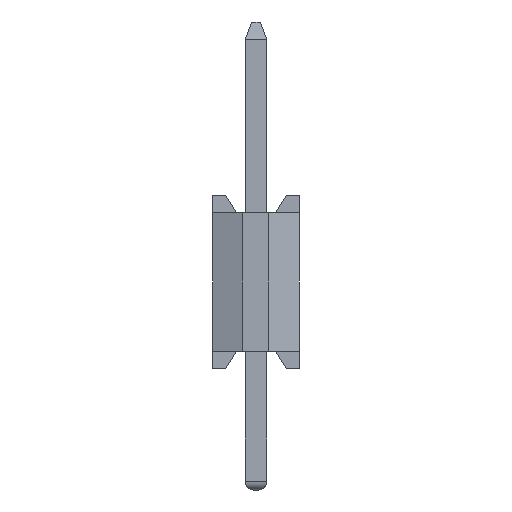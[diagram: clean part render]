
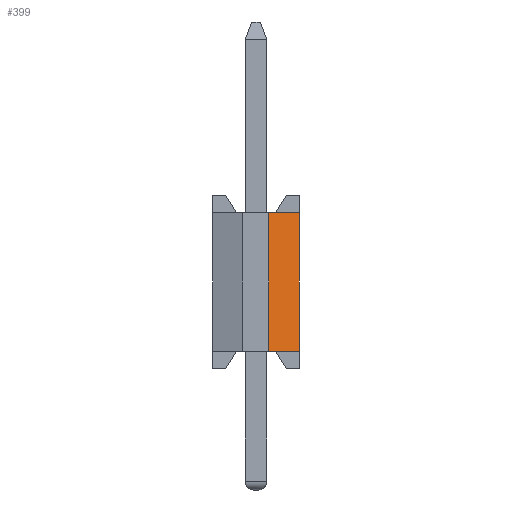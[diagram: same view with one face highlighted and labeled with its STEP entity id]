
A CAD part, left-side view. The second image highlights one B-rep face of the part: STEP entity #399.
In plain terms, the highlighted planar face has unit normal (-0.942, -0.336, 0).
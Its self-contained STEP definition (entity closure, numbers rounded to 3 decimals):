
#399=ADVANCED_FACE('',(#1395),#923,.T.);
#923=PLANE('',#10174);
#1395=FACE_OUTER_BOUND('',#1932,.T.);
#1932=EDGE_LOOP('',(#3614,#3615,#3616,#3617));
#3614=ORIENTED_EDGE('',*,*,#6166,.F.);
#3615=ORIENTED_EDGE('',*,*,#6700,.T.);
#3616=ORIENTED_EDGE('',*,*,#6190,.T.);
#3617=ORIENTED_EDGE('',*,*,#6206,.F.);
#5278=VERTEX_POINT('',#13578);
#5279=VERTEX_POINT('',#13579);
#5302=VERTEX_POINT('',#13628);
#5303=VERTEX_POINT('',#13629);
#6166=EDGE_CURVE('',#5278,#5279,#7550,.T.);
#6190=EDGE_CURVE('',#5302,#5303,#7574,.T.);
#6206=EDGE_CURVE('',#5279,#5303,#7590,.T.);
#6700=EDGE_CURVE('',#5278,#5302,#8084,.T.);
#7550=LINE('',#13577,#8882);
#7574=LINE('',#13627,#8906);
#7590=LINE('',#13661,#8922);
#8084=LINE('',#14623,#9416);
#8882=VECTOR('',#10839,1.);
#8906=VECTOR('',#10867,1.);
#8922=VECTOR('',#10887,1.);
#9416=VECTOR('',#11797,1.);
#10174=AXIS2_PLACEMENT_3D('',#14624,#11798,#11799);
#10839=DIRECTION('',(0.,0.,-1.));
#10867=DIRECTION('',(0.,0.,-1.));
#10887=DIRECTION('',(-0.336,0.942,0.));
#11797=DIRECTION('',(-0.336,0.942,0.));
#11798=DIRECTION('',(-0.942,-0.336,0.));
#11799=DIRECTION('',(0.336,-0.942,0.));
#13577=CARTESIAN_POINT('',(0.25,0.,0.));
#13578=CARTESIAN_POINT('',(0.25,0.,3.2));
#13579=CARTESIAN_POINT('',(0.25,0.,0.));
#13627=CARTESIAN_POINT('',(0.,0.7,0.));
#13628=CARTESIAN_POINT('',(0.,0.7,3.2));
#13629=CARTESIAN_POINT('',(0.,0.7,0.));
#13661=CARTESIAN_POINT('',(0.25,0.,0.));
#14623=CARTESIAN_POINT('',(0.25,0.,3.2));
#14624=CARTESIAN_POINT('',(0.25,0.,1.6));
